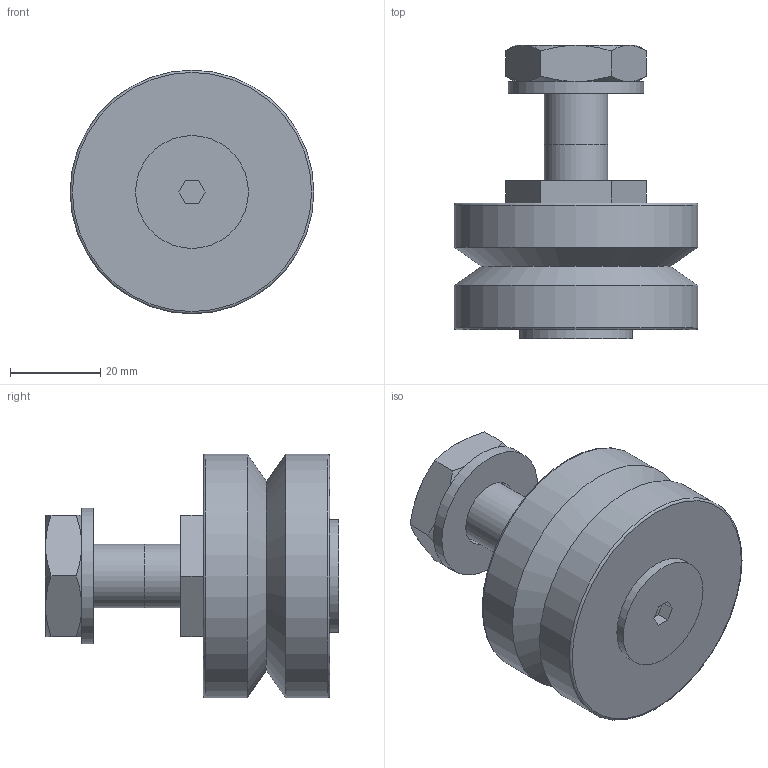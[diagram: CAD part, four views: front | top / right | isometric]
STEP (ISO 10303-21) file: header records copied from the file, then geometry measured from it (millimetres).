
FILE_DESCRIPTION(('STEP AP203'),'1');
FILE_NAME('//192.168.1.1/share/s-4 技術開発/s-4-4_CAD/s-4-4-6_見直し、確認済み/013 修正済み(済)/ジャーナル_TOP/NAL/NAL-54-C.step','2022-03-11T07:27:18',(' '),(' '),'Spatial InterOp 3D',' ',' ');
FILE_SCHEMA(('CONFIG_CONTROL_DESIGN'));
Length unit declared in the file: millimetre
Products named in the file (3): 1; 2; 3
Bounding box: 54 x 65 x 54 mm (x, y, z)
Volume: 74200.5 mm3; surface area: 15465.2 mm2
Topology: 3 solids, 3 shells, 52 faces, 113 edges, 70 vertices
Faces by surface type: plane 27, cone 14, cylinder 8, torus 2, sphere 1
Full cylindrical faces by diameter (mm): 12 x1, 14 x2, 15 x1, 25 x1, 30 x1, 54 x2
Entity records: 1534 total; most frequent: CARTESIAN_POINT 361, DIRECTION 212, ORIENTED_EDGE 192, EDGE_CURVE 96, AXIS2_PLACEMENT_3D 85, EDGE_LOOP 72, VERTEX_POINT 66, FACE_OUTER_BOUND 62
